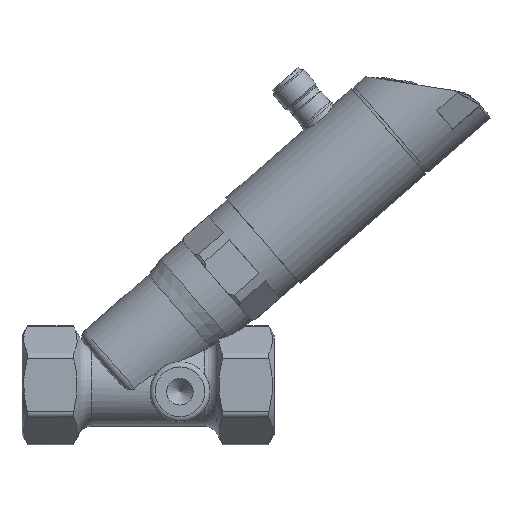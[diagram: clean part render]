
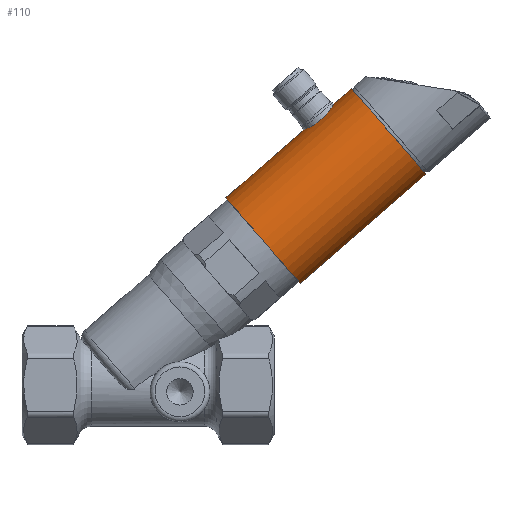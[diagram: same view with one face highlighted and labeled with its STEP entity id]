
A CAD part, top view. The second image highlights one B-rep face of the part: STEP entity #110.
In plain terms, the highlighted cylindrical face has radius 17.1 mm (diameter 34.2 mm), a full revolution.
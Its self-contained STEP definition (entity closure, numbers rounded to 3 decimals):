
#110 = ADVANCED_FACE( '', ( #345, #346, #347 ), #348, .T. );
#345 = FACE_OUTER_BOUND( '', #799, .T. );
#346 = FACE_OUTER_BOUND( '', #800, .T. );
#347 = FACE_BOUND( '', #801, .T. );
#348 = CYLINDRICAL_SURFACE( '', #802, 17.1 );
#799 = EDGE_LOOP( '', ( #1433 ) );
#800 = EDGE_LOOP( '', ( #1434 ) );
#801 = EDGE_LOOP( '', ( #1435 ) );
#802 = AXIS2_PLACEMENT_3D( '', #1436, #1437, #1438 );
#1433 = ORIENTED_EDGE( '', *, *, #2707, .F. );
#1434 = ORIENTED_EDGE( '', *, *, #2708, .T. );
#1435 = ORIENTED_EDGE( '', *, *, #2705, .F. );
#1436 = CARTESIAN_POINT( '', ( 18.372, -3.589, 0. ) );
#1437 = DIRECTION( '', ( 0.755, 0.656, 0. ) );
#1438 = DIRECTION( '', ( 0.656, -0.755, 0. ) );
#2705 = EDGE_CURVE( '', #3214, #3214, #3215, .T. );
#2707 = EDGE_CURVE( '', #3218, #3218, #3219, .T. );
#2708 = EDGE_CURVE( '', #3220, #3220, #3221, .T. );
#3214 = VERTEX_POINT( '', #4089 );
#3215 = B_SPLINE_CURVE_WITH_KNOTS( '', 3, ( #4090, #4091, #4092, #4093, #4094, #4095, #4096, #4097, #4098, #4099, #4100, #4101, #4102, #4103, #4104, #4105, #4106, #4107, #4108, #4109, #4110, #4111, #4112, #4113, #4114, #4115, #4116, #4117, #4118, #4119, #4120, #4121, #4122, #4123, #4124, #4125, #4126, #4127, #4128, #4129, #4130, #4131, #4132, #4133, #4134, #4135, #4136, #4137, #4138, #4139, #4140, #4141, #4142, #4143, #4144, #4145, #4146, #4147, #4148, #4149, #4150, #4151, #4152, #4153, #4154, #4155, #4156, #4157, #4158, #4159, #4160, #4161, #4162, #4163, #4164, #4165, #4166, #4167, #4168, #4169, #4170, #4171, #4172, #4173, #4174 ), .UNSPECIFIED., .T., .F., ( 2, 2, 2, 2, 2, 2, 2, 2, 2, 2, 2, 2, 2, 2, 2, 2, 2, 2, 2, 2, 2, 2, 1, 2, 2, 2, 2, 2, 2, 2, 2, 2, 2, 2, 2, 2, 2, 2, 2, 2, 2, 2, 2, 2, 2 ), ( -0.001, 0., 0.001, 0.002, 0.002, 0.004, 0.004, 0.005, 0.006, 0.007, 0.008, 0.008, 0.009, 0.011, 0.012, 0.013, 0.014, 0.014, 0.015, 0.017, 0.018, 0.018, 0.019, 0.019, 0.02, 0.021, 0.022, 0.024, 0.025, 0.025, 0.026, 0.027, 0.028, 0.03, 0.03, 0.031, 0.031, 0.032, 0.033, 0.034, 0.035, 0.036, 0.037, 0.038, 0.039 ), .UNSPECIFIED. );
#3218 = VERTEX_POINT( '', #4177 );
#3219 = CIRCLE( '', #4178, 17.1 );
#3220 = VERTEX_POINT( '', #4179 );
#3221 = CIRCLE( '', #4180, 17.1 );
#4089 = CARTESIAN_POINT( '', ( 93.967, 84.783, 0. ) );
#4090 = CARTESIAN_POINT( '', ( 93.967, 84.783, 0.4 ) );
#4091 = CARTESIAN_POINT( '', ( 93.967, 84.783, -0.4 ) );
#4092 = CARTESIAN_POINT( '', ( 93.947, 84.747, -0.792 ) );
#4093 = CARTESIAN_POINT( '', ( 93.885, 84.641, -1.371 ) );
#4094 = CARTESIAN_POINT( '', ( 93.86, 84.597, -1.562 ) );
#4095 = CARTESIAN_POINT( '', ( 93.798, 84.492, -1.941 ) );
#4096 = CARTESIAN_POINT( '', ( 93.762, 84.43, -2.128 ) );
#4097 = CARTESIAN_POINT( '', ( 93.64, 84.225, -2.672 ) );
#4098 = CARTESIAN_POINT( '', ( 93.539, 84.06, -3.015 ) );
#4099 = CARTESIAN_POINT( '', ( 93.356, 83.773, -3.503 ) );
#4100 = CARTESIAN_POINT( '', ( 93.289, 83.67, -3.661 ) );
#4101 = CARTESIAN_POINT( '', ( 93.147, 83.454, -3.963 ) );
#4102 = CARTESIAN_POINT( '', ( 93.071, 83.342, -4.107 ) );
#4103 = CARTESIAN_POINT( '', ( 92.83, 82.992, -4.519 ) );
#4104 = CARTESIAN_POINT( '', ( 92.65, 82.742, -4.766 ) );
#4105 = CARTESIAN_POINT( '', ( 92.243, 82.212, -5.204 ) );
#4106 = CARTESIAN_POINT( '', ( 92.024, 81.941, -5.388 ) );
#4107 = CARTESIAN_POINT( '', ( 91.667, 81.528, -5.613 ) );
#4108 = CARTESIAN_POINT( '', ( 91.543, 81.39, -5.68 ) );
#4109 = CARTESIAN_POINT( '', ( 91.285, 81.111, -5.795 ) );
#4110 = CARTESIAN_POINT( '', ( 91.15, 80.97, -5.844 ) );
#4111 = CARTESIAN_POINT( '', ( 90.739, 80.556, -5.961 ) );
#4112 = CARTESIAN_POINT( '', ( 90.454, 80.288, -6. ) );
#4113 = CARTESIAN_POINT( '', ( 89.858, 79.77, -6. ) );
#4114 = CARTESIAN_POINT( '', ( 89.545, 79.518, -5.961 ) );
#4115 = CARTESIAN_POINT( '', ( 88.925, 79.054, -5.806 ) );
#4116 = CARTESIAN_POINT( '', ( 88.614, 78.839, -5.692 ) );
#4117 = CARTESIAN_POINT( '', ( 87.995, 78.439, -5.388 ) );
#4118 = CARTESIAN_POINT( '', ( 87.694, 78.258, -5.202 ) );
#4119 = CARTESIAN_POINT( '', ( 87.263, 78.015, -4.877 ) );
#4120 = CARTESIAN_POINT( '', ( 87.123, 77.938, -4.761 ) );
#4121 = CARTESIAN_POINT( '', ( 86.848, 77.792, -4.513 ) );
#4122 = CARTESIAN_POINT( '', ( 86.715, 77.724, -4.38 ) );
#4123 = CARTESIAN_POINT( '', ( 86.333, 77.532, -3.966 ) );
#4124 = CARTESIAN_POINT( '', ( 86.102, 77.423, -3.667 ) );
#4125 = CARTESIAN_POINT( '', ( 85.689, 77.235, -3.019 ) );
#4126 = CARTESIAN_POINT( '', ( 85.507, 77.157, -2.668 ) );
#4127 = CARTESIAN_POINT( '', ( 85.216, 77.034, -1.946 ) );
#4128 = CARTESIAN_POINT( '', ( 85.103, 76.988, -1.571 ) );
#4129 = CARTESIAN_POINT( '', ( 84.988, 76.941, -0.988 ) );
#4130 = CARTESIAN_POINT( '', ( 84.959, 76.93, -0.79 ) );
#4131 = CARTESIAN_POINT( '', ( 84.921, 76.914, -0.396 ) );
#4132 = CARTESIAN_POINT( '', ( 84.901, 76.907, -0.002 ) );
#4133 = CARTESIAN_POINT( '', ( 84.92, 76.914, 0.392 ) );
#4134 = CARTESIAN_POINT( '', ( 84.958, 76.93, 0.785 ) );
#4135 = CARTESIAN_POINT( '', ( 84.987, 76.941, 0.983 ) );
#4136 = CARTESIAN_POINT( '', ( 85.102, 76.987, 1.567 ) );
#4137 = CARTESIAN_POINT( '', ( 85.215, 77.033, 1.943 ) );
#4138 = CARTESIAN_POINT( '', ( 85.507, 77.157, 2.667 ) );
#4139 = CARTESIAN_POINT( '', ( 85.688, 77.235, 3.018 ) );
#4140 = CARTESIAN_POINT( '', ( 86.101, 77.423, 3.665 ) );
#4141 = CARTESIAN_POINT( '', ( 86.332, 77.532, 3.966 ) );
#4142 = CARTESIAN_POINT( '', ( 86.844, 77.789, 4.52 ) );
#4143 = CARTESIAN_POINT( '', ( 87.119, 77.934, 4.768 ) );
#4144 = CARTESIAN_POINT( '', ( 87.549, 78.176, 5.093 ) );
#4145 = CARTESIAN_POINT( '', ( 87.696, 78.262, 5.193 ) );
#4146 = CARTESIAN_POINT( '', ( 87.996, 78.443, 5.378 ) );
#4147 = CARTESIAN_POINT( '', ( 88.15, 78.539, 5.464 ) );
#4148 = CARTESIAN_POINT( '', ( 88.613, 78.838, 5.691 ) );
#4149 = CARTESIAN_POINT( '', ( 88.923, 79.053, 5.805 ) );
#4150 = CARTESIAN_POINT( '', ( 89.542, 79.516, 5.96 ) );
#4151 = CARTESIAN_POINT( '', ( 89.854, 79.767, 6. ) );
#4152 = CARTESIAN_POINT( '', ( 90.451, 80.286, 6. ) );
#4153 = CARTESIAN_POINT( '', ( 90.737, 80.554, 5.961 ) );
#4154 = CARTESIAN_POINT( '', ( 91.149, 80.969, 5.845 ) );
#4155 = CARTESIAN_POINT( '', ( 91.284, 81.109, 5.796 ) );
#4156 = CARTESIAN_POINT( '', ( 91.542, 81.388, 5.681 ) );
#4157 = CARTESIAN_POINT( '', ( 91.666, 81.527, 5.614 ) );
#4158 = CARTESIAN_POINT( '', ( 91.904, 81.803, 5.464 ) );
#4159 = CARTESIAN_POINT( '', ( 92.019, 81.94, 5.38 ) );
#4160 = CARTESIAN_POINT( '', ( 92.24, 82.212, 5.194 ) );
#4161 = CARTESIAN_POINT( '', ( 92.347, 82.347, 5.092 ) );
#4162 = CARTESIAN_POINT( '', ( 92.65, 82.743, 4.765 ) );
#4163 = CARTESIAN_POINT( '', ( 92.83, 82.993, 4.518 ) );
#4164 = CARTESIAN_POINT( '', ( 93.153, 83.46, 3.968 ) );
#4165 = CARTESIAN_POINT( '', ( 93.296, 83.679, 3.662 ) );
#4166 = CARTESIAN_POINT( '', ( 93.539, 84.061, 3.014 ) );
#4167 = CARTESIAN_POINT( '', ( 93.64, 84.226, 2.671 ) );
#4168 = CARTESIAN_POINT( '', ( 93.763, 84.431, 2.126 ) );
#4169 = CARTESIAN_POINT( '', ( 93.799, 84.492, 1.938 ) );
#4170 = CARTESIAN_POINT( '', ( 93.86, 84.597, 1.561 ) );
#4171 = CARTESIAN_POINT( '', ( 93.886, 84.641, 1.37 ) );
#4172 = CARTESIAN_POINT( '', ( 93.947, 84.747, 0.792 ) );
#4173 = CARTESIAN_POINT( '', ( 93.967, 84.783, 0.4 ) );
#4174 = CARTESIAN_POINT( '', ( 93.967, 84.783, -0.4 ) );
#4177 = CARTESIAN_POINT( '', ( 83.877, 30.696, 0. ) );
#4178 = AXIS2_PLACEMENT_3D( '', #6087, #6088, #6089 );
#4179 = CARTESIAN_POINT( '', ( 121.763, 63.63, 0. ) );
#4180 = AXIS2_PLACEMENT_3D( '', #6090, #6091, #6092 );
#6087 = CARTESIAN_POINT( '', ( 72.658, 43.602, 0. ) );
#6088 = DIRECTION( '', ( -0.755, -0.656, 0. ) );
#6089 = DIRECTION( '', ( 0.656, -0.755, 0. ) );
#6090 = CARTESIAN_POINT( '', ( 110.544, 76.536, 0. ) );
#6091 = DIRECTION( '', ( -0.755, -0.656, 0. ) );
#6092 = DIRECTION( '', ( 0.656, -0.755, 0. ) );
